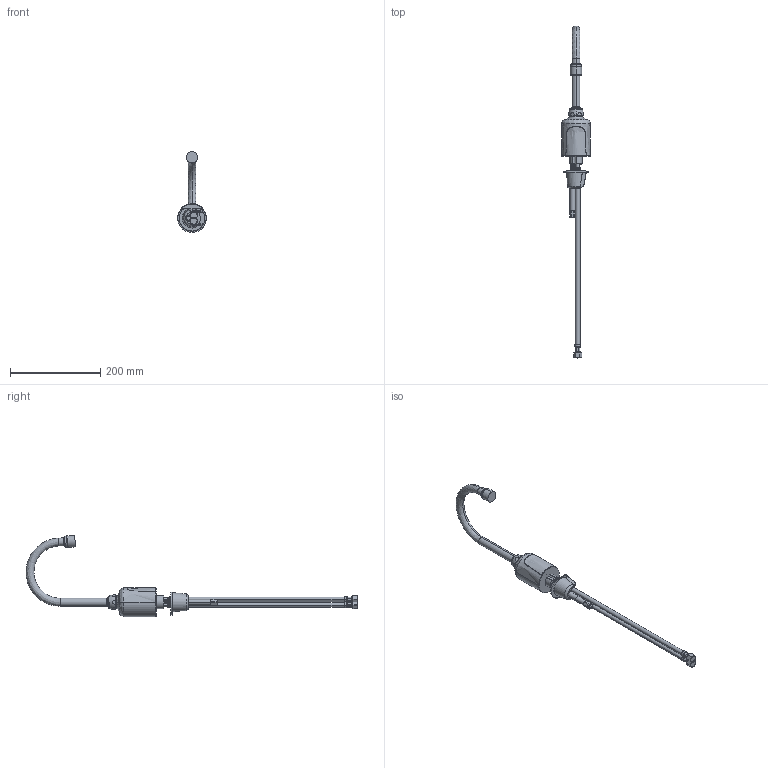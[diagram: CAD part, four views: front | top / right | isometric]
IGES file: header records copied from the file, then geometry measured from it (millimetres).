
Start section:  PTC IGES file: 116-213-AB-1_REV030910.igs
Global section: file name: 116-213-AB-1_REV030910.igs; native system: Pro/ENGINEER by Parametric Technology Corporation; preprocessor: 2009230; author: sdmitruk; organization: Unknown; date: 20100309.081957; units: inch
Bounding box: 63.5 x 735.24 x 179.56 mm (x, y, z)
Surface area: 101527.3 mm2 (no closed solid volume)
Topology: 0 solids, 52 shells, 575 faces, 1694 edges, 1142 vertices
Faces by surface type: revolution 340, bspline 235
